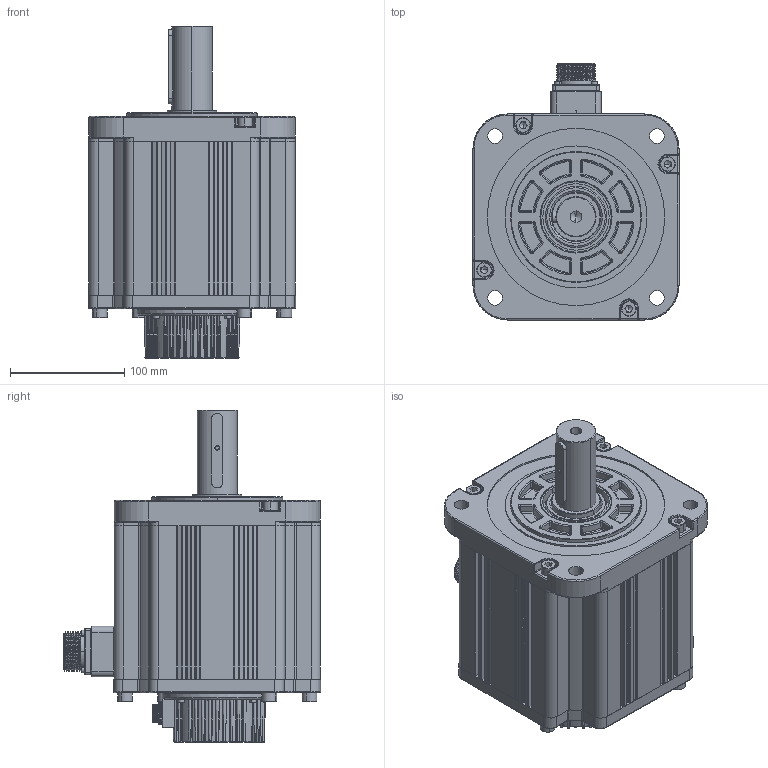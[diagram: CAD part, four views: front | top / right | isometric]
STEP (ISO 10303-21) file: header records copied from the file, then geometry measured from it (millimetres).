
FILE_DESCRIPTION (( 'STEP AP214' ), '1' );
FILE_NAME ('V7E-M18D-4R415-D1.STEP', '2021-08-10T03:20:30', ( '' ), ( '' ), 'SwSTEP 2.0', 'SolidWorks 2014', '' );
FILE_SCHEMA (( 'AUTOMOTIVE_DESIGN' ));
Length unit declared in the file: millimetre
Products named in the file (16): 180#綴傷裔; 埴芛囀鞠褒 ISO 4762 M8 x 30 --- 30N; 坋趼攫芛蹟佪 M2X8-8  H type-N; SC180ヶ傷裔1009; 埴芛囀鞠褒 ISO 4762 M3 x 30 --- 18N; SC180瑤脣釱1015; V7E-M18D-4R415-D1; SC晤鎢ん欶200908_10郋; SC蚐猾 D00B999YF8-TC 44-62-10; SCCMS3102A22-22P-Z; SC180儂褲1009; 180粣-47沺郋; SCSC瑤諾脣芛 16M-9H; 埴芛囀鞠褒 ISO 4762 M3 x 10 --- 10N; 零件1^180#新电机-无刹车 201021; 180#陔隅赽201019
Assembly tree (31 placements, depth 3):
  V7E-M18D-4R415-D1
    180#陔隅赽201019
      SC180儂褲1009
      SC180ヶ傷裔1009
      SCCMS3102A22-22P-Z
      SC180瑤脣釱1015
    SC晤鎢ん欶200908_10郋
    SCSC瑤諾脣芛 16M-9H
    SC蚐猾 D00B999YF8-TC 44-62-10
    坋趼攫芛蹟佪 M2X8-8  H type-N  x4
    埴芛囀鞠褒 ISO 4762 M3 x 10 --- 10N  x4
    埴芛囀鞠褒 ISO 4762 M8 x 30 --- 30N  x8
    埴芛囀鞠褒 ISO 4762 M3 x 30 --- 18N  x4
    零件1^180#新电机-无刹车 201021
    180粣-47沺郋
    180#綴傷裔
Bounding box: 180.95 x 225.07 x 290 mm (x, y, z)
Volume: 1864661.2 mm3; surface area: 503161.7 mm2
Topology: 30 solids, 30 shells, 3134 faces, 7512 edges, 4341 vertices
Faces by surface type: bspline 1025, cylinder 1021, plane 763, cone 257, torus 64, sphere 4
Entity records: 139205 total; most frequent: CARTESIAN_POINT 54822, ORIENTED_EDGE 12742, DIRECTION 10735, EDGE_CURVE 6371, AXIS2_PLACEMENT_3D 4323, VERTEX_POINT 3786, EDGE_LOOP 2897, FACE_OUTER_BOUND 2711
